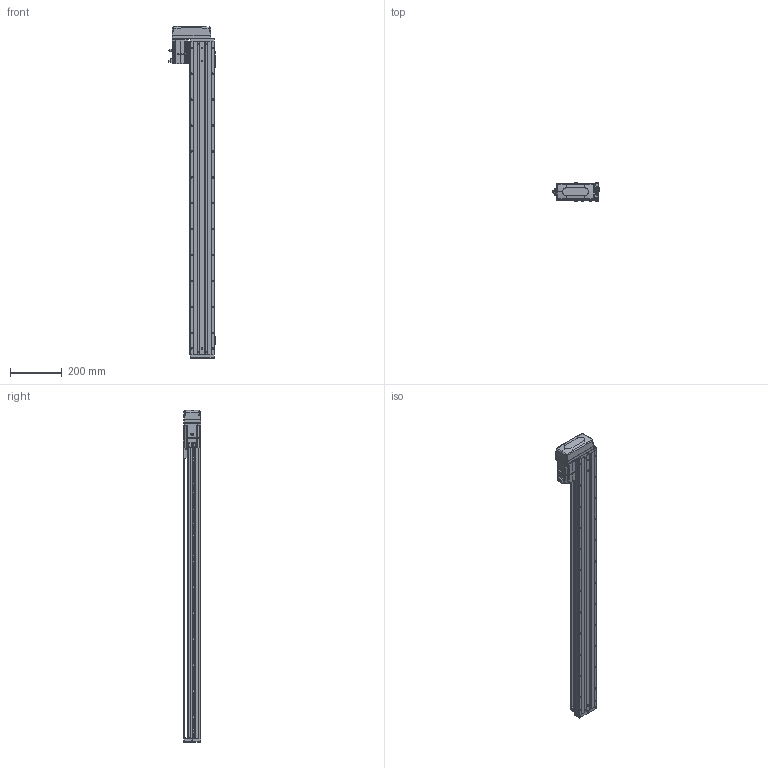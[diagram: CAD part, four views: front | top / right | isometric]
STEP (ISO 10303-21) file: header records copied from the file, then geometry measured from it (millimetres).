
FILE_DESCRIPTION (( 'STEP AP203' ), '1' );
FILE_NAME ('KTHA100-1050-BR-M20-C4L.step', '2022-04-26T01:58:29', ( '微软用户' ), ( '微软中国' ), 'SwSTEP 2.0', 'SolidWorks 2020', '' );
FILE_SCHEMA (( 'CONFIG_CONTROL_DESIGN' ));
Length unit declared in the file: millimetre
Products named in the file (17): KTHA100-1050-BR-M20-C4L; KTHA100-005; GBT70.1 M5℅16; GB¨uT 70.2-M3¡Á5_M3¡Á6; CTHA60-016; EE_SX911P_R; GBT 70.3-M3℅6; CTHA60-017; _X2_4E0983F1_X0_200W_1; KTHA100-001_1210; CTHA60-021; CTHA86-015-1_CTHA86-015-2; KTHA100-002; GBT77-2000 M3×3; CTHA86-033; KTHA100-004; GBT 70.1-M3℅6
Assembly tree (57 placements, depth 2):
  KTHA100-1050-BR-M20-C4L
    KTHA100-001_1210
    KTHA100-002
    KTHA100-004
    KTHA100-005
    GB¨uT 70.2-M3¡Á5_M3¡Á6  x6
    EE_SX911P_R  x3
    CTHA60-017  x3
    CTHA60-021  x2
    GBT77-2000 M3×3  x6
    GBT 70.1-M3℅6  x10
    GBT70.1 M5℅16  x14
    CTHA60-016  x2
    GBT 70.3-M3℅6  x4
    _X2_4E0983F1_X0_200W_1
    CTHA86-015-1_CTHA86-015-2
    CTHA86-033
Bounding box: 178.52 x 68 x 1281 mm (x, y, z)
Volume: 5295284.3 mm3; surface area: 855681.9 mm2
Topology: 60 solids, 60 shells, 2537 faces, 6113 edges, 3796 vertices
Faces by surface type: plane 1304, cylinder 707, cone 319, torus 116, bspline 75, sphere 16
Entity records: 45178 total; most frequent: CARTESIAN_POINT 9008, DIRECTION 7042, ORIENTED_EDGE 6838, EDGE_CURVE 3419, AXIS2_PLACEMENT_3D 2438, LINE 2166, VECTOR 2166, VERTEX_POINT 2156
